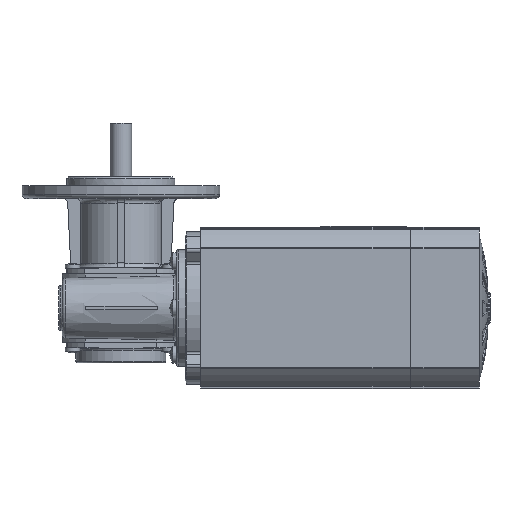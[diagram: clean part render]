
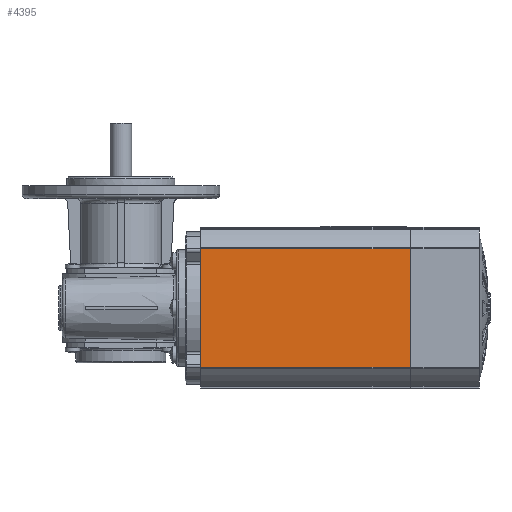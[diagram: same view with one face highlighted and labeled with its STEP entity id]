
A CAD part, front view. The second image highlights one B-rep face of the part: STEP entity #4395.
In plain terms, the highlighted planar face has unit normal (0, -1, 0).
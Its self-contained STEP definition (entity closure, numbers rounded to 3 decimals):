
#4337 = VERTEX_POINT ( 'NONE', #23149 ) ;
#4341 = VERTEX_POINT ( 'NONE', #23143 ) ;
#4394 = EDGE_CURVE ( 'NONE', #4337, #4341, #23237, .T. ) ;
#4395 = ADVANCED_FACE ( 'NONE', ( #23233 ), #23297, .F. ) ;
#4396 = EDGE_LOOP ( 'NONE', ( #4397, #4400, #4401, #4404 ) ) ;
#4397 = ORIENTED_EDGE ( 'NONE', *, *, #4398, .F. ) ;
#4398 = EDGE_CURVE ( 'NONE', #4337, #4399, #23292, .T. ) ;
#4399 = VERTEX_POINT ( 'NONE', #23288 ) ;
#4400 = ORIENTED_EDGE ( 'NONE', *, *, #4394, .T. ) ;
#4401 = ORIENTED_EDGE ( 'NONE', *, *, #4402, .T. ) ;
#4402 = EDGE_CURVE ( 'NONE', #4341, #4403, #23287, .T. ) ;
#4403 = VERTEX_POINT ( 'NONE', #23283 ) ;
#4404 = ORIENTED_EDGE ( 'NONE', *, *, #4405, .F. ) ;
#4405 = EDGE_CURVE ( 'NONE', #4399, #4403, #23282, .T. ) ;
#23143 = CARTESIAN_POINT ( 'NONE',  ( 12.5, -45., 33. ) ) ;
#23149 = CARTESIAN_POINT ( 'NONE',  ( 129., -45., 33. ) ) ;
#23233 = FACE_OUTER_BOUND ( 'NONE', #4396, .T. ) ;
#23234 = DIRECTION ( 'NONE',  ( -1., 0., 0. ) ) ;
#23235 = VECTOR ( 'NONE', #23234, 1000. ) ;
#23236 = CARTESIAN_POINT ( 'NONE',  ( 167.5, -45., 33. ) ) ;
#23237 = LINE ( 'NONE', #23236, #23235 ) ;
#23279 = DIRECTION ( 'NONE',  ( -1., 0., 0. ) ) ;
#23280 = VECTOR ( 'NONE', #23279, 1000. ) ;
#23281 = CARTESIAN_POINT ( 'NONE',  ( 167.5, -45., -33. ) ) ;
#23282 = LINE ( 'NONE', #23281, #23280 ) ;
#23283 = CARTESIAN_POINT ( 'NONE',  ( 12.5, -45., -33. ) ) ;
#23284 = DIRECTION ( 'NONE',  ( 0., 0., -1. ) ) ;
#23285 = VECTOR ( 'NONE', #23284, 1000. ) ;
#23286 = CARTESIAN_POINT ( 'NONE',  ( 12.5, -45., 33. ) ) ;
#23287 = LINE ( 'NONE', #23286, #23285 ) ;
#23288 = CARTESIAN_POINT ( 'NONE',  ( 129., -45., -33. ) ) ;
#23289 = DIRECTION ( 'NONE',  ( 0., 0., -1. ) ) ;
#23290 = VECTOR ( 'NONE', #23289, 1000. ) ;
#23291 = CARTESIAN_POINT ( 'NONE',  ( 129., -45., 33. ) ) ;
#23292 = LINE ( 'NONE', #23291, #23290 ) ;
#23293 = DIRECTION ( 'NONE',  ( 0., 0., 1. ) ) ;
#23294 = DIRECTION ( 'NONE',  ( 0., 1., 0. ) ) ;
#23295 = CARTESIAN_POINT ( 'NONE',  ( 167.5, -45., 33. ) ) ;
#23296 = AXIS2_PLACEMENT_3D ( 'NONE', #23295, #23294, #23293 ) ;
#23297 = PLANE ( 'NONE',  #23296 ) ;
